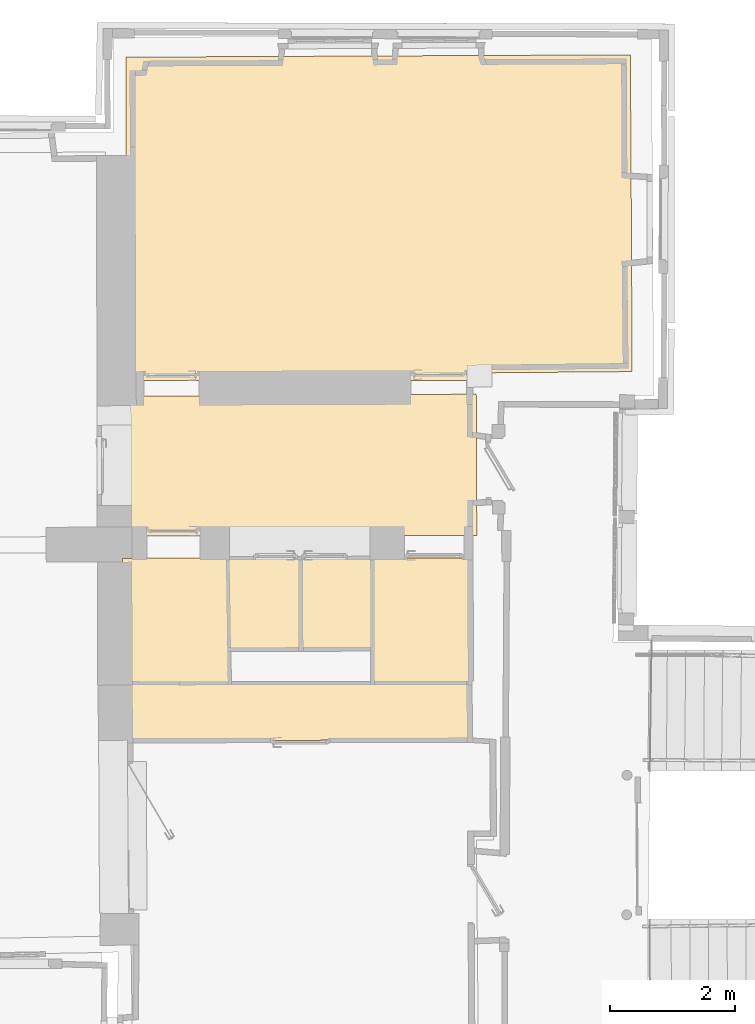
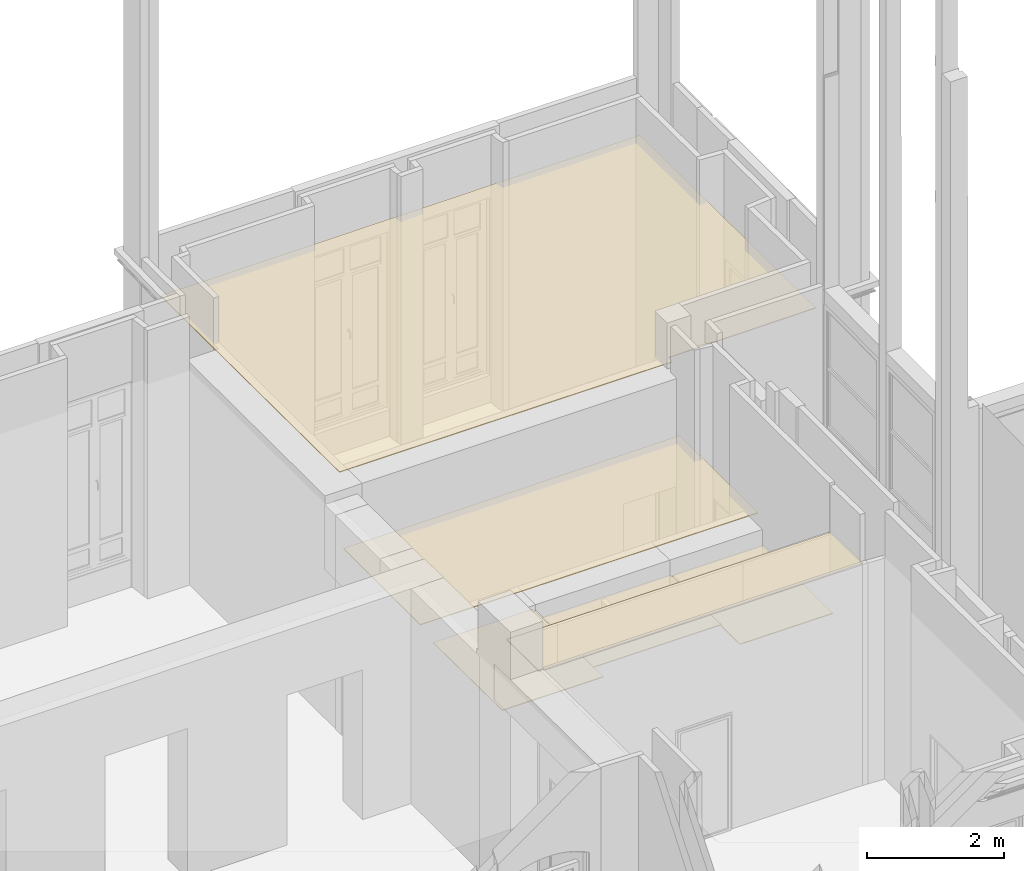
# One storey, part 81 of 97: 6 coverings.
"""IFC2X3 building model written with IfcOpenShell, lengths in centimetres."""

import ifcopenshell
import ifcopenshell.guid

model = None  # the IFC model being written
_history = None  # IfcOwnerHistory: only IFC2X3 demands one
_inside = {}  # id of a spatial element -> (the spatial element, [elements in it])
_under = {}  # id of a project, library or spatial element -> (it, [spatial elements below it])
_declared = {}  # id of a project -> (the project, [libraries it declares])
_typed = {}  # id of a type object -> (the type object, [elements of that type])
_made_of = {}  # id of a material, layer set ... -> (it, [elements and type objects made of it])


def new_model(schema):
    """Start an empty IFC model of exactly this schema.

    Asked for "IFC4X3", IfcOpenShell would pick the latest addendum, in which some entities
    have other attributes; the version numbers below select the first issue.
    IFC2X3 requires an IfcOwnerHistory on every rooted entity: one is made here for all.
    """
    global model, _history
    if schema == "IFC4X3":
        model = ifcopenshell.file(schema_version=(4, 3, 0, 0))
    else:
        model = ifcopenshell.file(schema=schema)
    _inside.clear()
    _under.clear()
    _declared.clear()
    _typed.clear()
    _made_of.clear()
    _history = None
    if model.schema == "IFC2X3":
        org = make("IfcOrganization", Name="unknown")
        user = make(
            "IfcPersonAndOrganization",
            ThePerson=make("IfcPerson", FamilyName="unknown"),
            TheOrganization=org,
        )
        app = make(
            "IfcApplication",
            ApplicationDeveloper=org,
            Version="unknown",
            ApplicationFullName="unknown",
            ApplicationIdentifier="unknown",
        )
        _history = make(
            "IfcOwnerHistory",
            OwningUser=user,
            OwningApplication=app,
            ChangeAction="ADDED",
            CreationDate=0,
        )
    return model


def make(cls, **values):
    """One entity of the class cls with the attributes given. An attribute that is None is left unset."""
    return model.create_entity(
        cls, **{name: value for name, value in values.items() if value is not None}
    )


def entity(cls, *values):
    """Any entity or typed value of the class cls, its attributes in the order of the schema. None: left unset."""
    e = model.create_entity(cls)
    for i, value in enumerate(values):
        if value is not None:
            e[i] = value
    return e


def rooted(cls, **values):
    """An entity with a GlobalId (a new one), such as an element, a storey or a relation."""
    return make(cls, GlobalId=ifcopenshell.guid.new(), OwnerHistory=_history, **values)


def si_unit(unit_type, name, prefix=None):
    """IfcSIUnit, for example si_unit("LENGTHUNIT", "METRE", prefix="MILLI")."""
    return make("IfcSIUnit", UnitType=unit_type, Prefix=prefix, Name=name)


def converted_unit(unit_type, name, factor, base, dimensions=None, offset=None):
    """IfcConversionBasedUnit, such as the inch: factor (a typed value) times the base unit."""
    return make(
        "IfcConversionBasedUnit"
        if offset is None
        else "IfcConversionBasedUnitWithOffset",
        ConversionOffset=offset,
        Dimensions=None
        if dimensions is None
        else entity("IfcDimensionalExponents", *dimensions),
        UnitType=unit_type,
        Name=name,
        ConversionFactor=make(
            "IfcMeasureWithUnit", ValueComponent=factor, UnitComponent=base
        ),
    )


def assignment(units):
    """IfcUnitAssignment: the units of a project."""
    return None if units is None else make("IfcUnitAssignment", Units=units)


def point(xyz):
    """IfcCartesianPoint."""
    return None if xyz is None else make("IfcCartesianPoint", Coordinates=xyz)


def direction(xyz):
    """IfcDirection."""
    return None if xyz is None else make("IfcDirection", DirectionRatios=xyz)


def frame(location, z_axis=None, x_axis=None):
    """IfcAxis2Placement3D, a coordinate frame: its origin and axes. An axis left out is left unset."""
    return make(
        "IfcAxis2Placement3D",
        Location=point(location),
        Axis=direction(z_axis),
        RefDirection=direction(x_axis),
    )


def origin():
    """The frame at (0, 0, 0) with its axes left unset."""
    return frame((0.0, 0.0, 0.0))


def origin_with_axes():
    """The frame at (0, 0, 0) with the z axis (0, 0, 1) and the x axis (1, 0, 0) written out."""
    return frame((0.0, 0.0, 0.0), z_axis=(0.0, 0.0, 1.0), x_axis=(1.0, 0.0, 0.0))


def place(relative_to, where):
    """IfcLocalPlacement: puts the frame where relative to a parent placement (None: the world)."""
    return make(
        "IfcLocalPlacement", PlacementRelTo=relative_to, RelativePlacement=where
    )


def context(
    kind, dimensions, precision=None, world=None, true_north=None, identifier=None
):
    """IfcGeometricRepresentationContext, for example the 3D "Model" context."""
    return make(
        "IfcGeometricRepresentationContext",
        ContextIdentifier=identifier,
        ContextType=kind,
        CoordinateSpaceDimension=dimensions,
        Precision=precision,
        WorldCoordinateSystem=world,
        TrueNorth=true_north,
    )


def subcontext(parent, identifier, kind, view, scale=None):
    """IfcGeometricRepresentationSubContext, for example "Body" below "Model"."""
    return make(
        "IfcGeometricRepresentationSubContext",
        ContextIdentifier=identifier,
        ContextType=kind,
        ParentContext=parent,
        TargetScale=scale,
        TargetView=view,
    )


def project(units=None, contexts=None):
    """IfcProject with its units and contexts."""
    return rooted(
        "IfcProject",
        Name="project",
        RepresentationContexts=contexts,
        UnitsInContext=assignment(units),
    )


def spatial(cls, under=None, at=None, **own):
    """A site, building, storey or space (cls), placed at a placement, below another one or the project."""
    s = rooted(cls, ObjectPlacement=at, **own)
    if under is not None:
        _under.setdefault(under.id(), (under, []))[1].append(s)
    return s


def faces_of(points, faces, orient=None, outer=None):
    """IfcFace entities. A face is a list of loops; a loop is a list of indices into points, from 0.

    orient and outer hold one flag for each loop. By default every Orientation is true, the
    first loop of a face is its IfcFaceOuterBound and the others are IfcFaceBound.
    """
    made = []
    for i, loops in enumerate(faces):
        bounds = []
        for j, loop in enumerate(loops):
            is_outer = j == 0 if outer is None else outer[i][j]
            bounds.append(
                make(
                    "IfcFaceOuterBound" if is_outer else "IfcFaceBound",
                    Bound=make("IfcPolyLoop", Polygon=[points[k] for k in loop]),
                    Orientation=True if orient is None else orient[i][j],
                )
            )
        made.append(make("IfcFace", Bounds=bounds))
    return made


def faceted_brep(points, faces, orient=None, outer=None, voids=None):
    """IfcFacetedBrep: a solid bounded by flat faces; with voids (closed shells), ...WithVoids."""
    shared = [point(p) for p in points]
    hull = make("IfcClosedShell", CfsFaces=faces_of(shared, faces, orient, outer))
    if voids is None:
        return make("IfcFacetedBrep", Outer=hull)
    return make(
        "IfcFacetedBrepWithVoids",
        Outer=hull,
        Voids=[
            make(cls, CfsFaces=faces_of(shared, fs, o, b)) for cls, fs, o, b in voids
        ],
    )


def shape(context_of_items, identifier, shape_type, items):
    """IfcShapeRepresentation: the items that make up one representation, for example the "Body"."""
    return make(
        "IfcShapeRepresentation",
        ContextOfItems=context_of_items,
        RepresentationIdentifier=identifier,
        RepresentationType=shape_type,
        Items=items,
    )


def material(Name=None, Category=None):
    """IfcMaterial."""
    return make("IfcMaterial", Name=Name, Category=Category)


def made_of(thing, what):
    """Note that an element or type object is made of a material, layer set ...; save() writes the relation."""
    if what is not None:
        _made_of.setdefault(what.id(), (what, []))[1].append(thing)
    return thing


def element(
    cls,
    number,
    at=None,
    inside=None,
    cuts=None,
    type_object=None,
    material=None,
    context=None,
    identifier="Body",
    shape_type=None,
    held_by="IfcProductDefinitionShape",
    body=None,
    shapes=None,
    **own,
):
    """One element of the class cls, such as IfcWall. Its Tag is "e" and its number.

    at: its placement. inside: the storey or other place that contains it. cuts: it is an
    opening in that element (IfcRelVoidsElement). A single representation is given by context,
    identifier, shape_type and body (its items); several are given by shapes. held_by: the class
    of the entity that holds the representations. save() writes the other relations.
    """
    e = rooted(cls, Tag="e%d" % number, ObjectPlacement=at, **own)
    if body is not None:
        shapes = [shape(context, identifier, shape_type, body)]
    if shapes is not None:
        e.Representation = make(held_by, Representations=shapes)
    if inside is not None:
        _inside.setdefault(inside.id(), (inside, []))[1].append(e)
    if cuts is not None:
        rooted(
            "IfcRelVoidsElement", RelatingBuildingElement=cuts, RelatedOpeningElement=e
        )
    if type_object is not None:
        _typed.setdefault(type_object.id(), (type_object, []))[1].append(e)
    return made_of(e, material)


def aggregate(whole, parts):
    """IfcRelAggregates: a whole, such as a stair, and the parts it consists of."""
    return rooted("IfcRelAggregates", RelatingObject=whole, RelatedObjects=parts)


def save(model, path):
    """Write the relations noted so far, then the file.

    IfcRelAggregates (storeys below a building ...), IfcRelContainedInSpatialStructure (elements
    in a storey), IfcRelDefinesByType, IfcRelAssociatesMaterial and IfcRelDeclares: one each for
    every whole, place, type object, material and project.
    """
    for whole, parts in _under.values():
        aggregate(whole, parts)
    for where, things in _inside.values():
        rooted(
            "IfcRelContainedInSpatialStructure",
            RelatedElements=things,
            RelatingStructure=where,
        )
    for kind, things in _typed.values():
        rooted("IfcRelDefinesByType", RelatedObjects=things, RelatingType=kind)
    for what, things in _made_of.values():
        rooted("IfcRelAssociatesMaterial", RelatedObjects=things, RelatingMaterial=what)
    for by, libraries in _declared.values():
        rooted("IfcRelDeclares", RelatingContext=by, RelatedDefinitions=libraries)
    model.write(path)


model = new_model("IFC2X3")

# Units and contexts
model_context = context("Model", 3, precision=0.0001, world=origin(), true_north=direction((0.225632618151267, 0.974212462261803, 0.0)))
body_context = subcontext(model_context, "Body", "Model", "MODEL_VIEW")
ifc_project = project(units=[si_unit("LENGTHUNIT", "METRE", prefix="CENTI"), si_unit("AREAUNIT", "SQUARE_METRE", prefix="CENTI"), si_unit("VOLUMEUNIT", "CUBIC_METRE", prefix="CENTI"), converted_unit("PLANEANGLEUNIT", "DEGREE", entity("IfcRatioMeasure", 0.0174532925), si_unit("PLANEANGLEUNIT", "RADIAN"), dimensions=[0, 0, 0, 0, 0, 0, 0])], contexts=[model_context])

# Site, building, storey
site_placement = place(None, origin_with_axes())
site = spatial("IfcSite", under=ifc_project, at=site_placement, Name="Default Site", CompositionType="ELEMENT")
building_placement = place(site_placement, origin_with_axes())
building = spatial("IfcBuilding", under=site, at=building_placement, Name="Default Building", CompositionType="ELEMENT")
storey_placement = place(building_placement, origin_with_axes())
storey = spatial("IfcBuildingStorey", under=building, at=storey_placement, Name="Rez-de-chaussée", CompositionType="ELEMENT", Elevation=0.0)

# Coverings
ifc_material = material(Name="Blanc")
covering_1_placement = place(storey_placement, frame((444.478382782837, -87.9459511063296, 267.795358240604), z_axis=(0.0, 0.0, 1.0), x_axis=(1.0, 0.0, 0.0)))
element("IfcCovering", 1, at=covering_1_placement, inside=storey, material=ifc_material, Name="Faux-plafond 6640", PredefinedType="CEILING", context=body_context, shape_type="Brep", body=[
    faceted_brep([(-167.310228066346, -200.384770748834, 1.40000766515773), (3.0959465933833, -200.537525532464, 1.40000766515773), (-1.40236821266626e-05, 1.07504907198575e-06, 1.40000766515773), (-168.408884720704, -0.92763197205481, 1.40000766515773), (-168.408884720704, -0.92763197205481, -1.00731845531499e-05), (-1.40236821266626e-05, 1.07504907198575e-06, -1.00731845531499e-05), (3.0959465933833, -200.537525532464, -1.00731845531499e-05), (-167.310228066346, -200.384770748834, -1.00731845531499e-05), (3.09594659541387, -200.537523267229, -1.00731845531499e-05), (3.09594659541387, -200.537523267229, 1.40000766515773), (6.07678501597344e-06, 1.38536431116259e-06, -1.00731845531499e-05), (6.07678501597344e-06, 1.38536431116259e-06, 1.40000766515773), (-168.408884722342, -0.927631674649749, -1.00731845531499e-05), (-168.408884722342, -0.927631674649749, 1.40000766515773), (-167.310231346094, -200.3847707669, -1.00731845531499e-05), (-167.310231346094, -200.3847707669, 1.40000766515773)], [[[0, 1, 2, 3]], [[4, 5, 6, 7]], [[7, 8, 9, 0]], [[6, 10, 11, 1]], [[5, 12, 13, 2]], [[4, 14, 15, 3]]]),
])
covering_2_placement = place(storey_placement, frame((284.966418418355, -288.698608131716, 391.393822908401), z_axis=(0.0, 0.0, 1.0), x_axis=(1.0, 0.0, 0.0)))
element("IfcCovering", 2, at=covering_2_placement, inside=storey, material=ifc_material, Name="Faux-plafond 11612", PredefinedType="CEILING", context=body_context, shape_type="Brep", body=[
    faceted_brep([(0.475361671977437, -92.2701056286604, 1.39999938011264), (547.324803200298, -91.5512974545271, 1.39999938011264), (545.953228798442, -0.172227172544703, 1.39999938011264), (2.7089647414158e-06, 6.40899826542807e-06, 1.39999938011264), (2.7089647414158e-06, 6.40899826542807e-06, 5.48362826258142e-06), (545.953228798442, -0.172227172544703, 5.48362826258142e-06), (547.324803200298, -91.5512974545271, 5.48362826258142e-06), (0.475361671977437, -92.2701056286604, 5.48362826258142e-06), (547.324803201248, -91.5512981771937, 5.48362826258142e-06), (547.324803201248, -91.5512981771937, 1.39999938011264), (545.953223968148, -0.172227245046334, 5.48362826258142e-06), (545.953223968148, -0.172227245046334, 1.39999938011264), (2.70404728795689e-06, -9.17996279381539e-06, 5.48362826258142e-06), (2.70404728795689e-06, -9.17996279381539e-06, 1.39999938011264), (0.475361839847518, -92.2701056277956, 5.48362826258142e-06), (0.475361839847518, -92.2701056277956, 1.39999938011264)], [[[0, 1, 2, 3]], [[4, 5, 6, 7]], [[7, 8, 9, 0]], [[6, 10, 11, 1]], [[5, 12, 13, 2]], [[4, 14, 15, 3]]]),
])
covering_3_placement = place(storey_placement, frame((446.747520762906, -234.927886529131, 247.586668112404), z_axis=(0.0, 0.0, 1.0), x_axis=(1.0, 0.0, 0.0)))
element("IfcCovering", 3, at=covering_3_placement, inside=storey, material=ifc_material, Name="Faux-plafond 3684", PredefinedType="CEILING", context=body_context, shape_type="Brep", body=[
    faceted_brep([(2.06647065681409e-05, -6.15580511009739e-06, 1.40000524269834), (230.013057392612, 0.523274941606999, 1.40000524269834), (229.595348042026, 146.981936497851, 1.40000524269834), (-2.26915200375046, 146.981936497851, 1.40000524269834), (-2.26915200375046, 146.981936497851, 1.13462139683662e-05), (229.595348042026, 146.981936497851, 1.13462139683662e-05), (230.013057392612, 0.523274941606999, 1.13462139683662e-05), (2.06647065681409e-05, -6.15580511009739e-06, 1.13462139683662e-05), (230.013057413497, 0.52326576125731, 1.13462139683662e-05), (230.013057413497, 0.52326576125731, 1.40000524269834), (229.595343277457, 146.981936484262, 1.13462139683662e-05), (229.595343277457, 146.981936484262, 1.40000524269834), (-1.38523360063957e-05, -6.68868647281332e-06, 1.13462139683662e-05), (-1.38523360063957e-05, -6.68868647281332e-06, 1.40000524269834)], [[[0, 1, 2, 3]], [[4, 5, 6, 7]], [[7, 8, 9, 0]], [[6, 10, 11, 1]], [[5, 4, 3, 2]], [[4, 12, 13, 3]]]),
])
covering_4_placement = place(storey_placement, frame((676.342880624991, -87.9459511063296, 245.905520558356), z_axis=(0.0, 0.0, 1.0), x_axis=(1.0, 0.0, 0.0)))
element("IfcCovering", 4, at=covering_4_placement, inside=storey, material=ifc_material, Name="Faux-plafond 3685", PredefinedType="CEILING", context=body_context, shape_type="Brep", body=[
    faceted_brep([(0.573670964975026, -201.139913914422, 1.3999918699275), (157.094943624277, -200.92135560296, 1.3999918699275), (156.619727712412, 1.07504910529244e-06, 1.3999918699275), (-1.18200591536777e-05, 1.07504910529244e-06, 1.3999918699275), (-1.18200591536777e-05, 1.07504910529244e-06, -2.02655687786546e-06), (156.619727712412, 1.07504910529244e-06, -2.02655687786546e-06), (157.094943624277, -200.92135560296, -2.02655687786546e-06), (0.573670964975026, -201.139913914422, -2.02655687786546e-06), (157.094943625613, -200.921356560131, -2.02655687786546e-06), (157.094943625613, -200.921356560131, 1.3999918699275), (156.619732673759, 1.08678348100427e-06, -2.02655687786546e-06), (156.619732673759, 1.08678348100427e-06, 1.3999918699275), (0.57365846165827, -201.139913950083, -2.02655687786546e-06), (0.57365846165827, -201.139913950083, 1.3999918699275)], [[[0, 1, 2, 3]], [[4, 5, 6, 7]], [[7, 8, 9, 0]], [[6, 10, 11, 1]], [[5, 4, 3, 2]], [[4, 12, 13, 3]]]),
])
covering_5_placement = place(storey_placement, frame((843.078242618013, 174.582553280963, 278.00009793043), z_axis=(0.0, 0.0, 1.0), x_axis=(1.0, 0.0, 0.0)))
element("IfcCovering", 5, at=covering_5_placement, inside=storey, material=ifc_material, Name="Faux-plafond 6071", PredefinedType="CEILING", context=body_context, shape_type="Brep", body=[
    faceted_brep([(-567.97274239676, -227.344876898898, 1.39998847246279), (0.976933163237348, -227.111024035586, 1.39998847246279), (-1.08064892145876e-05, -3.71111763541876e-07, 1.39998847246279), (-568.064748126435, -3.48833836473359, 1.39998847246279), (-568.064748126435, -3.48833836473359, -5.42402158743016e-06), (-1.08064892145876e-05, -3.71111763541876e-07, -5.42402158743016e-06), (0.976933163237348, -227.111024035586, -5.42402158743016e-06), (-567.97274239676, -227.344876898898, -5.42402158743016e-06), (0.976933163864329, -227.111025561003, -5.42402158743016e-06), (0.976933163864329, -227.111025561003, 1.39998847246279), (5.42522149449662e-06, -3.01290368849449e-07, -5.42402158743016e-06), (5.42522149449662e-06, -3.01290368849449e-07, 1.39998847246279), (-568.064748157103, -3.48833337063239, -5.42402158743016e-06), (-568.064748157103, -3.48833337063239, 1.39998847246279), (-567.972737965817, -227.344876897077, -5.42402158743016e-06), (-567.972737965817, -227.344876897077, 1.39998847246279)], [[[0, 1, 2, 3]], [[4, 5, 6, 7]], [[7, 8, 9, 0]], [[6, 10, 11, 1]], [[5, 12, 13, 2]], [[4, 14, 15, 3]]]),
])
covering_6_placement = place(storey_placement, frame((281.134058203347, 715.018232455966, 395.994530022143), z_axis=(0.0, 0.0, 1.0), x_axis=(1.0, 0.0, 0.0)))
element("IfcCovering", 6, at=covering_6_placement, inside=storey, material=ifc_material, Name="Faux-plafond 6095", PredefinedType="CEILING", context=body_context, shape_type="Brep", body=[
    faceted_brep([(1.76415327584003, -518.569191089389, 1.40000790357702), (562.595628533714, -518.547697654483, 1.40000790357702), (562.497018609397, -506.458600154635, 1.40000790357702), (812.115072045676, -504.423483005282, 1.40000790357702), (809.221242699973, 3.7393015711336, 1.40000790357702), (-1.15836407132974e-06, -7.73977948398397e-06, 1.40000790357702), (-1.15836407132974e-06, -7.73977948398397e-06, -9.83476526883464e-06), (809.221242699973, 3.7393015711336, -9.83476526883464e-06), (812.115072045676, -504.423483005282, -9.83476526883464e-06), (562.497018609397, -506.458600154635, -9.83476526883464e-06), (562.595628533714, -518.547697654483, -9.83476526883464e-06), (1.76415327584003, -518.569191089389, -9.83476526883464e-06), (562.595628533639, -518.54769570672, -9.83476526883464e-06), (562.595628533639, -518.54769570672, 1.40000790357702), (562.497066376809, -506.458599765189, -9.83476526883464e-06), (562.497066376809, -506.458599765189, 1.40000790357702), (812.115071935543, -504.423469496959, -9.83476526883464e-06), (812.115071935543, -504.423469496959, 1.40000790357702), (809.22123645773, 3.73930153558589, -9.83476526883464e-06), (809.22123645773, 3.73930153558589, 1.40000790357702), (-1.15005609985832e-06, -9.53770076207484e-06, -9.83476526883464e-06), (-1.15005609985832e-06, -9.53770076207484e-06, 1.40000790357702), (1.7641421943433, -518.569191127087, -9.83476526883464e-06), (1.7641421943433, -518.569191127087, 1.40000790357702)], [[[0, 1, 2, 3, 4, 5]], [[6, 7, 8, 9, 10, 11]], [[11, 12, 13, 0]], [[10, 14, 15, 1]], [[9, 16, 17, 2]], [[8, 18, 19, 3]], [[7, 20, 21, 4]], [[6, 22, 23, 5]]]),
])

save(model, "model.ifc")
